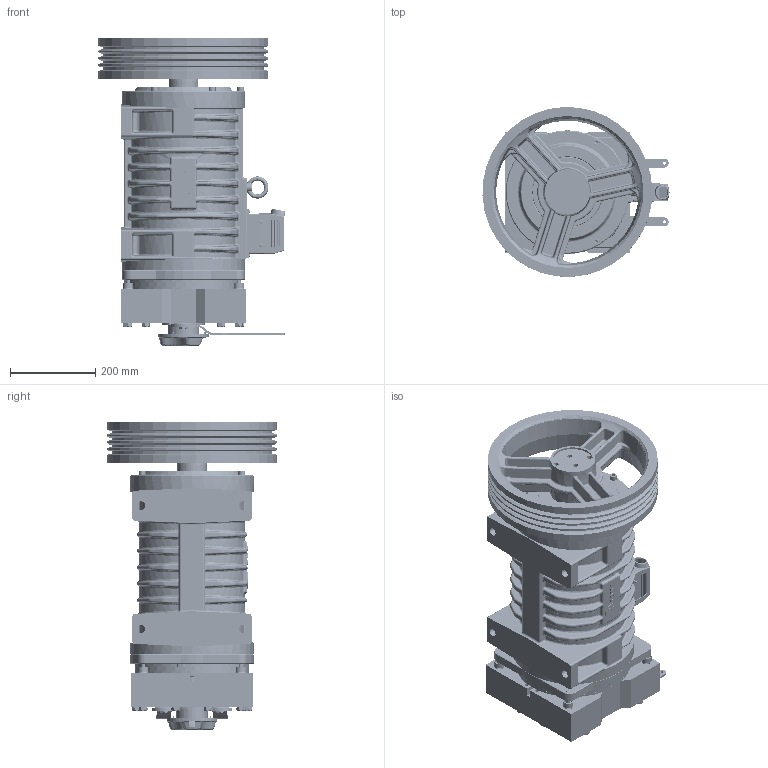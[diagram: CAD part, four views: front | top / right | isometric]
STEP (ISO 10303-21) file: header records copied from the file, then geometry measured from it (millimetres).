
FILE_DESCRIPTION (( 'STEP AP214' ), '1' );
FILE_NAME ('QS44080100.STEP', '2026-01-02T06:01:12', ( '' ), ( '' ), 'SwSTEP 2.0', 'SolidWorks 2023', '' );
FILE_SCHEMA (( 'AUTOMOTIVE_DESIGN' ));
Length unit declared in the file: millimetre
Products named in the file (1): QS44080100
Bounding box: 439.92 x 399.65 x 723.42 mm (x, y, z)
Volume: 22237968.7 mm3; surface area: 3595943 mm2
Topology: 99 solids, 99 shells, 4704 faces, 11119 edges, 6702 vertices
Faces by surface type: cylinder 1468, plane 1295, bspline 1086, cone 460, torus 257, sphere 138
Entity records: 192552 total; most frequent: CARTESIAN_POINT 92599, ORIENTED_EDGE 21872, DIRECTION 19319, EDGE_CURVE 10936, AXIS2_PLACEMENT_3D 7692, VERTEX_POINT 6666, EDGE_LOOP 5192, FACE_OUTER_BOUND 4704
